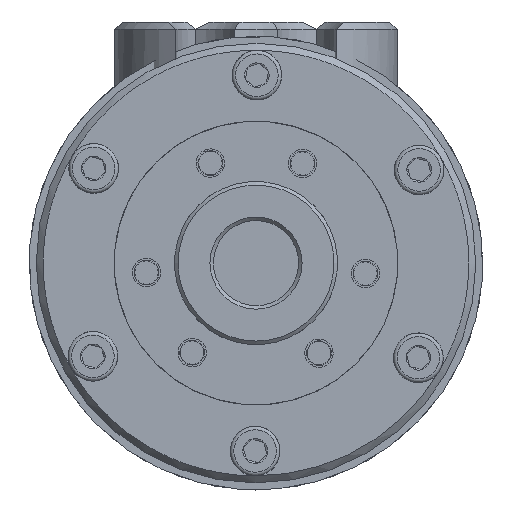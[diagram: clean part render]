
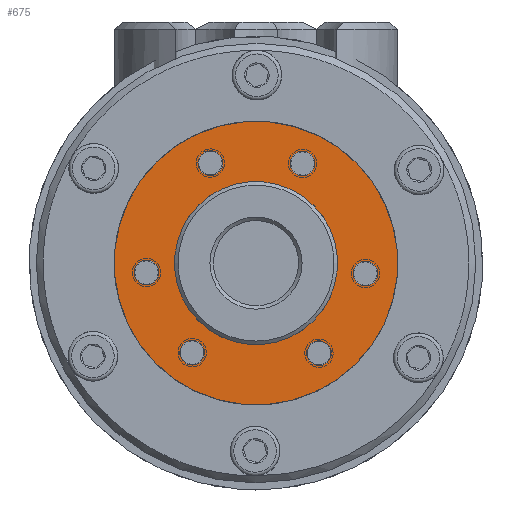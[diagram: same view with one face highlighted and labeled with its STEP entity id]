
A CAD part, left-side view. The second image highlights one B-rep face of the part: STEP entity #675.
In plain terms, the highlighted planar face has unit normal (-1, 0, 0) as drawn and (0, -1, 0) by its records, which use the part's own axes.
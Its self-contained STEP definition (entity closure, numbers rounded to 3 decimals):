
#675 = ADVANCED_FACE( '', ( #1434, #1435, #1436, #1437, #1438, #1439, #1440, #1441 ), #1442, .F. );
#1434 = FACE_OUTER_BOUND( '', #2466, .T. );
#1435 = FACE_BOUND( '', #2467, .T. );
#1436 = FACE_BOUND( '', #2468, .T. );
#1437 = FACE_BOUND( '', #2469, .T. );
#1438 = FACE_BOUND( '', #2470, .T. );
#1439 = FACE_BOUND( '', #2471, .T. );
#1440 = FACE_BOUND( '', #2472, .T. );
#1441 = FACE_BOUND( '', #2473, .T. );
#1442 = PLANE( '', #2474 );
#2466 = EDGE_LOOP( '', ( #4930 ) );
#2467 = EDGE_LOOP( '', ( #4931 ) );
#2468 = EDGE_LOOP( '', ( #4932 ) );
#2469 = EDGE_LOOP( '', ( #4933 ) );
#2470 = EDGE_LOOP( '', ( #4934 ) );
#2471 = EDGE_LOOP( '', ( #4935 ) );
#2472 = EDGE_LOOP( '', ( #4936 ) );
#2473 = EDGE_LOOP( '', ( #4937 ) );
#2474 = AXIS2_PLACEMENT_3D( '', #4938, #4939, #4940 );
#4930 = ORIENTED_EDGE( '', *, *, #6511, .T. );
#4931 = ORIENTED_EDGE( '', *, *, #6514, .F. );
#4932 = ORIENTED_EDGE( '', *, *, #6515, .F. );
#4933 = ORIENTED_EDGE( '', *, *, #6516, .F. );
#4934 = ORIENTED_EDGE( '', *, *, #6512, .F. );
#4935 = ORIENTED_EDGE( '', *, *, #6517, .F. );
#4936 = ORIENTED_EDGE( '', *, *, #6518, .F. );
#4937 = ORIENTED_EDGE( '', *, *, #6519, .F. );
#4938 = CARTESIAN_POINT( '', ( 0., 0., 20. ) );
#4939 = DIRECTION( '', ( 0., 1., 0. ) );
#4940 = DIRECTION( '', ( 1., 0., 0. ) );
#6511 = EDGE_CURVE( '', #7580, #7580, #7581, .T. );
#6512 = EDGE_CURVE( '', #7582, #7582, #7583, .T. );
#6514 = EDGE_CURVE( '', #7586, #7586, #7587, .T. );
#6515 = EDGE_CURVE( '', #7588, #7588, #7589, .T. );
#6516 = EDGE_CURVE( '', #7590, #7590, #7591, .T. );
#6517 = EDGE_CURVE( '', #7592, #7592, #7593, .T. );
#6518 = EDGE_CURVE( '', #7594, #7594, #7595, .T. );
#6519 = EDGE_CURVE( '', #7596, #7596, #7597, .T. );
#7580 = VERTEX_POINT( '', #9512 );
#7581 = CIRCLE( '', #9513, 20. );
#7582 = VERTEX_POINT( '', #9514 );
#7583 = CIRCLE( '', #9515, 1.65 );
#7586 = VERTEX_POINT( '', #9518 );
#7587 = CIRCLE( '', #9519, 1.65 );
#7588 = VERTEX_POINT( '', #9520 );
#7589 = CIRCLE( '', #9521, 1.65 );
#7590 = VERTEX_POINT( '', #9522 );
#7591 = CIRCLE( '', #9523, 1.65 );
#7592 = VERTEX_POINT( '', #9524 );
#7593 = CIRCLE( '', #9525, 1.65 );
#7594 = VERTEX_POINT( '', #9526 );
#7595 = CIRCLE( '', #9527, 1.65 );
#7596 = VERTEX_POINT( '', #9528 );
#7597 = CIRCLE( '', #9529, 11.5 );
#9512 = CARTESIAN_POINT( '', ( 0., 0., -20. ) );
#9513 = AXIS2_PLACEMENT_3D( '', #11665, #11666, #11667 );
#9514 = CARTESIAN_POINT( '', ( 6.925, 0., 11.994 ) );
#9515 = AXIS2_PLACEMENT_3D( '', #11668, #11669, #11670 );
#9518 = CARTESIAN_POINT( '', ( -6.021, 0., -13.174 ) );
#9519 = AXIS2_PLACEMENT_3D( '', #11674, #11675, #11676 );
#9520 = CARTESIAN_POINT( '', ( 6.925, 0., -11.994 ) );
#9521 = AXIS2_PLACEMENT_3D( '', #11677, #11678, #11679 );
#9522 = CARTESIAN_POINT( '', ( 14.42, 0., 1.372 ) );
#9523 = AXIS2_PLACEMENT_3D( '', #11680, #11681, #11682 );
#9524 = CARTESIAN_POINT( '', ( -8.398, 0., 11.802 ) );
#9525 = AXIS2_PLACEMENT_3D( '', #11683, #11684, #11685 );
#9526 = CARTESIAN_POINT( '', ( -13.85, 0., 0. ) );
#9527 = AXIS2_PLACEMENT_3D( '', #11686, #11687, #11688 );
#9528 = CARTESIAN_POINT( '', ( 0., 0., -11.5 ) );
#9529 = AXIS2_PLACEMENT_3D( '', #11689, #11690, #11691 );
#11665 = CARTESIAN_POINT( '', ( 0., 0., 0. ) );
#11666 = DIRECTION( '', ( 0., -1., 0. ) );
#11667 = DIRECTION( '', ( 0., 0., -1. ) );
#11668 = CARTESIAN_POINT( '', ( 7.75, 0., 13.423 ) );
#11669 = DIRECTION( '', ( 0., -1., 0. ) );
#11670 = DIRECTION( '', ( -0.5, 0., -0.866 ) );
#11674 = CARTESIAN_POINT( '', ( -5.196, 0., -14.603 ) );
#11675 = DIRECTION( '', ( 0., -1., 0. ) );
#11676 = DIRECTION( '', ( -0.5, 0., 0.866 ) );
#11677 = CARTESIAN_POINT( '', ( 7.75, 0., -13.423 ) );
#11678 = DIRECTION( '', ( 0., -1., 0. ) );
#11679 = DIRECTION( '', ( -0.5, 0., 0.866 ) );
#11680 = CARTESIAN_POINT( '', ( 15.245, 0., 2.801 ) );
#11681 = DIRECTION( '', ( 0., -1., 0. ) );
#11682 = DIRECTION( '', ( -0.5, 0., -0.866 ) );
#11683 = CARTESIAN_POINT( '', ( -10.048, 0., 11.802 ) );
#11684 = DIRECTION( '', ( 0., -1., 0. ) );
#11685 = DIRECTION( '', ( 1., 0., 0. ) );
#11686 = CARTESIAN_POINT( '', ( -15.5, 0., 0. ) );
#11687 = DIRECTION( '', ( 0., -1., 0. ) );
#11688 = DIRECTION( '', ( 1., 0., 0. ) );
#11689 = CARTESIAN_POINT( '', ( 0., 0., 0. ) );
#11690 = DIRECTION( '', ( 0., -1., 0. ) );
#11691 = DIRECTION( '', ( 0., 0., -1. ) );
